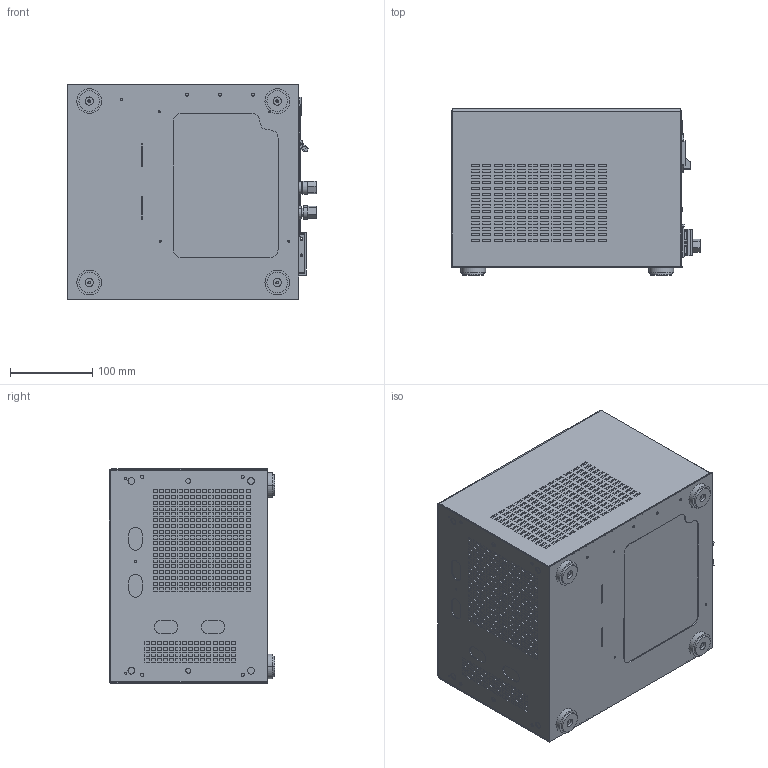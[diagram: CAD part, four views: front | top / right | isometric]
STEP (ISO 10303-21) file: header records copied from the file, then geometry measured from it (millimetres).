
FILE_DESCRIPTION (( 'STEP AP203' ), '1' );
FILE_NAME ('ePower_3D.STEP', '2021-08-06T07:55:35', ( '' ), ( '' ), 'SwSTEP 2.0', 'SolidWorks 2016', '' );
FILE_SCHEMA (( 'CONFIG_CONTROL_DESIGN' ));
Products named in the file (1): ePower_3D
Bounding box: 301.2 x 201 x 260.44 mm (x, y, z)
Volume: 13769228.3 mm3; surface area: 722041.3 mm2
Topology: 7 solids, 11 shells, 4957 faces, 13280 edges, 8801 vertices
Faces by surface type: plane 4718, cylinder 207, cone 12, sphere 10, torus 8, bspline 2
Entity records: 154027 total; most frequent: CARTESIAN_POINT 27057, ORIENTED_EDGE 26560, DIRECTION 23676, EDGE_CURVE 13280, LINE 12788, VECTOR 12788, VERTEX_POINT 8801, EDGE_LOOP 6563
